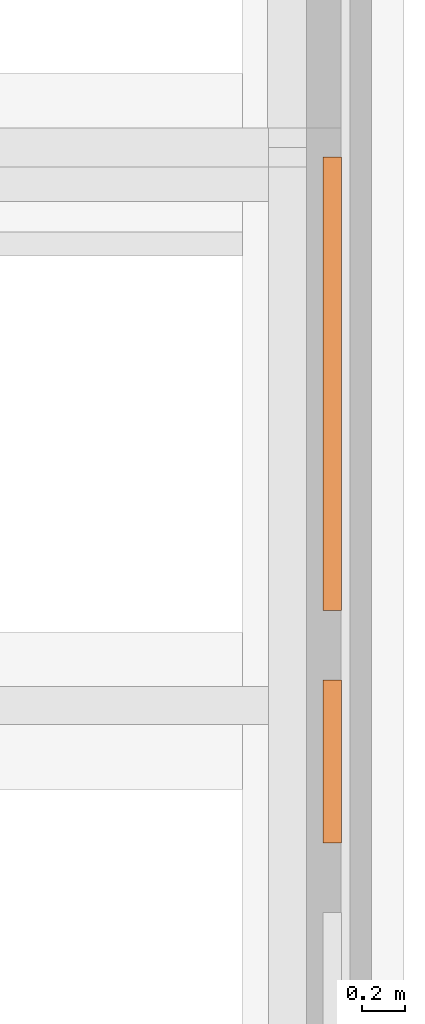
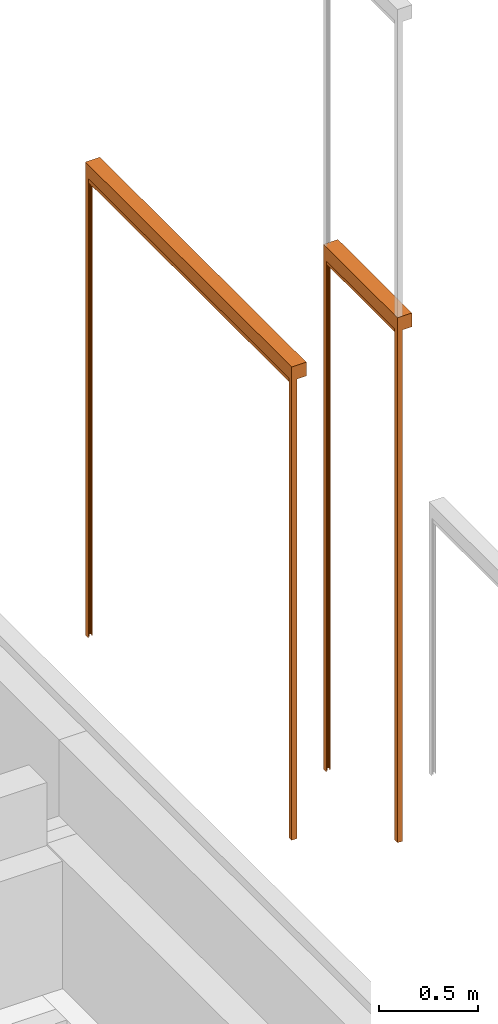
# One storey, part 15 of 15: 2 proxies.
"""IFC2X3 building model written with IfcOpenShell, lengths in millimetres."""

from ifc_helpers import new_model, entity, si_unit, converted_unit, derived_unit, direction, frame, frame_2d, origin, place, context, subcontext, project, spatial, polyline, circle_curve, parameter, trimmed, segment, composite_curve, rectangle, outline, extrude, source, transform, mapped, material, material_list, type_object, type_shapes, element, save


model = new_model("IFC2X3")

# Units and contexts
model_context = context("Model", 3, precision=0.01, world=origin(), true_north=direction((6.123031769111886e-17, 1.0)))
body_context = subcontext(model_context, "Body", "Model", "MODEL_VIEW")
ifc_project = project(units=[si_unit("LENGTHUNIT", "METRE", prefix="MILLI"), si_unit("AREAUNIT", "SQUARE_METRE"), si_unit("VOLUMEUNIT", "CUBIC_METRE"), converted_unit("PLANEANGLEUNIT", "DEGREE", entity("IfcRatioMeasure", 0.017453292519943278), si_unit("PLANEANGLEUNIT", "RADIAN"), dimensions=[0, 0, 0, 0, 0, 0, 0]), si_unit("MASSUNIT", "GRAM", prefix="KILO"), derived_unit("MASSDENSITYUNIT", [(si_unit("MASSUNIT", "GRAM", prefix="KILO"), 1), (si_unit("LENGTHUNIT", "METRE"), -3)]), derived_unit("IONCONCENTRATIONUNIT", [(si_unit("MASSUNIT", "GRAM", prefix="KILO"), 1), (si_unit("LENGTHUNIT", "METRE"), -3)]), derived_unit("MOMENTOFINERTIAUNIT", [(si_unit("LENGTHUNIT", "METRE"), 4)]), si_unit("TIMEUNIT", "SECOND"), si_unit("FREQUENCYUNIT", "HERTZ"), si_unit("THERMODYNAMICTEMPERATUREUNIT", "DEGREE_CELSIUS"), derived_unit("THERMALTRANSMITTANCEUNIT", [(si_unit("MASSUNIT", "GRAM", prefix="KILO"), 1), (si_unit("THERMODYNAMICTEMPERATUREUNIT", "KELVIN"), -1), (si_unit("TIMEUNIT", "SECOND"), -3)]), derived_unit("THERMALCONDUCTANCEUNIT", [(si_unit("MASSUNIT", "GRAM", prefix="KILO"), 1), (si_unit("THERMODYNAMICTEMPERATUREUNIT", "KELVIN"), -1), (si_unit("TIMEUNIT", "SECOND"), -3), (si_unit("LENGTHUNIT", "METRE"), 1)]), derived_unit("VOLUMETRICFLOWRATEUNIT", [(si_unit("LENGTHUNIT", "METRE"), 3), (si_unit("TIMEUNIT", "SECOND"), -1)]), derived_unit("MASSFLOWRATEUNIT", [(si_unit("MASSUNIT", "GRAM", prefix="KILO"), 1), (si_unit("TIMEUNIT", "SECOND"), -1)]), derived_unit("ROTATIONALFREQUENCYUNIT", [(si_unit("TIMEUNIT", "SECOND"), -1)]), si_unit("ELECTRICCURRENTUNIT", "AMPERE"), si_unit("ELECTRICVOLTAGEUNIT", "VOLT"), si_unit("POWERUNIT", "WATT"), si_unit("FORCEUNIT", "NEWTON", prefix="KILO"), si_unit("ILLUMINANCEUNIT", "LUX"), si_unit("LUMINOUSFLUXUNIT", "LUMEN"), si_unit("LUMINOUSINTENSITYUNIT", "CANDELA"), derived_unit("USERDEFINED", [(si_unit("MASSUNIT", "GRAM", prefix="KILO"), -1), (si_unit("LENGTHUNIT", "METRE"), -2), (si_unit("TIMEUNIT", "SECOND"), 3), (si_unit("LUMINOUSFLUXUNIT", "LUMEN"), 1)]), derived_unit("USERDEFINED", [(si_unit("MASSUNIT", "GRAM", prefix="KILO"), 1), (si_unit("TIMEUNIT", "SECOND"), -3), (si_unit("LENGTHUNIT", "METRE"), 3), (si_unit("ELECTRICCURRENTUNIT", "AMPERE"), -2)]), derived_unit("SOUNDPOWERUNIT", [(si_unit("MASSUNIT", "GRAM", prefix="KILO"), 1), (si_unit("TIMEUNIT", "SECOND"), -3), (si_unit("LENGTHUNIT", "METRE"), 2)]), derived_unit("SOUNDPRESSUREUNIT", [(si_unit("MASSUNIT", "GRAM", prefix="KILO"), 1), (si_unit("LENGTHUNIT", "METRE"), -1), (si_unit("TIMEUNIT", "SECOND"), -2)]), derived_unit("LINEARVELOCITYUNIT", [(si_unit("LENGTHUNIT", "METRE"), 1), (si_unit("TIMEUNIT", "SECOND"), -1)]), si_unit("PRESSUREUNIT", "PASCAL"), derived_unit("USERDEFINED", [(si_unit("MASSUNIT", "GRAM", prefix="KILO"), 1), (si_unit("LENGTHUNIT", "METRE"), -2), (si_unit("TIMEUNIT", "SECOND"), -2)]), derived_unit("LINEARFORCEUNIT", [(si_unit("MASSUNIT", "GRAM", prefix="KILO"), 1), (si_unit("TIMEUNIT", "SECOND"), -2)]), derived_unit("PLANARFORCEUNIT", [(si_unit("MASSUNIT", "GRAM", prefix="KILO"), 1), (si_unit("LENGTHUNIT", "METRE"), -1), (si_unit("TIMEUNIT", "SECOND"), -2)]), derived_unit("SPECIFICHEATCAPACITYUNIT", [(si_unit("THERMODYNAMICTEMPERATUREUNIT", "KELVIN"), -1), (si_unit("LENGTHUNIT", "METRE"), 2), (si_unit("TIMEUNIT", "SECOND"), -2)]), derived_unit("HEATINGVALUEUNIT", [(si_unit("LENGTHUNIT", "METRE"), 2), (si_unit("TIMEUNIT", "SECOND"), -2)]), derived_unit("VAPORPERMEABILITYUNIT", [(si_unit("LENGTHUNIT", "METRE"), -1), (si_unit("TIMEUNIT", "SECOND"), 1)]), derived_unit("DYNAMICVISCOSITYUNIT", [(si_unit("MASSUNIT", "GRAM", prefix="KILO"), 1), (si_unit("TIMEUNIT", "SECOND"), -1), (si_unit("LENGTHUNIT", "METRE"), -1)]), derived_unit("THERMALEXPANSIONCOEFFICIENTUNIT", [(si_unit("THERMODYNAMICTEMPERATUREUNIT", "KELVIN"), -1)]), derived_unit("MODULUSOFELASTICITYUNIT", [(si_unit("MASSUNIT", "GRAM", prefix="KILO"), 1), (si_unit("LENGTHUNIT", "METRE"), -1), (si_unit("TIMEUNIT", "SECOND"), -2)]), derived_unit("ISOTHERMALMOISTURECAPACITYUNIT", [(si_unit("LENGTHUNIT", "METRE"), 3), (si_unit("MASSUNIT", "GRAM", prefix="KILO"), -1)]), derived_unit("MOISTUREDIFFUSIVITYUNIT", [(si_unit("TIMEUNIT", "SECOND"), -1), (si_unit("LENGTHUNIT", "METRE"), 2)])], contexts=[model_context])

# Site, building, storey
site_placement = place(None, frame((0.0, 300.0, 0.0)))
site = spatial("IfcSite", under=ifc_project, at=site_placement, Name="<Kadastrale nummers>", CompositionType="ELEMENT")
building_placement = place(site_placement, origin())
building = spatial("IfcBuilding", under=site, at=building_placement, CompositionType="ELEMENT")
storey_placement = place(building_placement, frame((0.0, 0.0, -1570.0)))
storey = spatial("IfcBuildingStorey", under=building, at=storey_placement, Name="-1 fundering", CompositionType="ELEMENT", Elevation=-1570.0)

# Proxies
ifc_material_1 = material(Name="STAAL_RAL 7006")
ifc_material_2 = material(Name="<Unnamed>")
ifc_material_list = material_list([ifc_material_1, ifc_material_2])
building_element_proxy_type_1 = type_object("IfcBuildingElementProxyType", Name="31_DAT_Screen_zonwering_bak85:31_DAT_Screen_zonwering_bak85", PredefinedType="NOTDEFINED", material=ifc_material_list)
shared_shape_1 = source(origin(), body_context, "Body", "SweptSolid", [
    extrude(outline(polyline([(-60.69864841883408, -53.573897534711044), (20.695945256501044, -53.573897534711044), (20.695945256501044, 1.1216926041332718), (22.501351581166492, 1.1216926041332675), (22.501351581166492, 24.626102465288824), (17.501351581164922, 24.626102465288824), (17.501351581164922, 27.826102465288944), (-60.69864841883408, 27.826102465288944), (-60.69864841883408, -53.573897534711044)])), frame((2088.0, -29.62610246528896, 3312.501351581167), z_axis=(1.0, 0.0, 0.0), x_axis=(0.0, 0.0, -1.0)), (0.0, 0.0, 1.0), 1.999999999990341),
    extrude(outline(polyline([(-55.83243227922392, -51.08259835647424), (29.167567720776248, -51.08259835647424), (29.167567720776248, 5.412991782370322), (27.362161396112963, 5.412991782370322), (27.362161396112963, -49.28259835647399), (-54.03243227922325, -49.28259835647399), (-54.03243227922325, 32.117401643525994), (24.1675677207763, 32.117401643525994), (24.1675677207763, 28.91740164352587), (29.167567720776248, 28.91740164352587), (29.167567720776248, 33.917401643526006), (-55.83243227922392, 33.917401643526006), (-55.83243227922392, -51.08259835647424)])), frame((0.0, -33.917401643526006, 3319.167567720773), z_axis=(1.0, 0.0, 0.0), x_axis=(0.0, 0.0, -1.0)), (0.0, 0.0, 1.0), 2089.9999999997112),
    extrude(outline(polyline([(-60.69864841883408, -53.573897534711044), (20.695945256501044, -53.573897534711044), (20.695945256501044, 1.1216926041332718), (22.501351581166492, 1.1216926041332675), (22.501351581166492, 24.626102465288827), (17.501351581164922, 24.626102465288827), (17.501351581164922, 27.826102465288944), (-60.69864841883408, 27.826102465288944), (-60.69864841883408, -53.573897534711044)])), frame((0.0, -29.62610246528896, 3312.501351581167), z_axis=(1.0, 0.0, 0.0), x_axis=(0.0, 0.0, -1.0)), (0.0, 0.0, 1.0), 1.999999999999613),
    extrude(rectangle(XDim=2049.9999999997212, YDim=1.163311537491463, at=frame_2d((0.0, -2.1094237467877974e-15), x_axis=(1.0, 0.0))), frame((1045.0, -20.037293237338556, 3280.8)), (0.0, 0.0, 1.0), 9.200000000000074),
    extrude(outline(composite_curve([segment(polyline([(-7.502327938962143, -23.023758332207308), (7.497672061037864, -23.023758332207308)]), True, "CONTINUOUS"), segment(trimmed(circle_curve(frame_2d((7.497672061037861, -21.523758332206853), x_axis=(0.0, -1.0)), 1.4999999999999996), [parameter(359.99999999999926)], [parameter(90.00000000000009)], True, "PARAMETER"), True, "CONTINUOUS"), segment(polyline([(8.997672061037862, -21.523758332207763), (8.997672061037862, 8.976241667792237)]), True, "CONTINUOUS"), segment(trimmed(circle_curve(frame_2d((5.99767206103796, 8.976241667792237), x_axis=(0.0, -1.0)), 3.0), [parameter(90.00000000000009)], [parameter(172.84454900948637)], True, "PARAMETER"), True, "CONTINUOUS"), segment(polyline([(6.371357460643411, 11.952877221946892), (2.232090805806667, 12.470504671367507)]), True, "CONTINUOUS"), segment(trimmed(circle_curve(frame_2d((2.1399803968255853, 11.733933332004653), x_axis=(0.0, -1.0)), 0.7423083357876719), [parameter(172.87199730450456)], [parameter(323.5235343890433)], True, "PARAMETER"), True, "CONTINUOUS"), segment(trimmed(circle_curve(frame_2d((-0.0023279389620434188, 8.976241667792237), x_axis=(0.0, -1.0)), 2.75), [parameter(217.47327986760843)], [parameter(141.78969998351)], True, "PARAMETER"), False, "CONTINUOUS"), segment(trimmed(circle_curve(frame_2d((-2.144636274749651, 11.733933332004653), x_axis=(0.0, -1.0)), 0.7423083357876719), [parameter(39.207114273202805)], [parameter(187.12800269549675)], True, "PARAMETER"), True, "CONTINUOUS"), segment(polyline([(-2.2367466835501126, 12.470504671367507), (-6.376013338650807, 11.952877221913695)]), True, "CONTINUOUS"), segment(trimmed(circle_curve(frame_2d((-6.002327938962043, 8.976241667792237), x_axis=(0.0, -1.0)), 3.0), [parameter(187.1554509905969)], [parameter(269.9999999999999)], True, "PARAMETER"), True, "CONTINUOUS"), segment(polyline([(-9.002327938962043, 8.976241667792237), (-9.002327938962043, -21.523758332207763)]), True, "CONTINUOUS"), segment(trimmed(circle_curve(frame_2d((-7.502327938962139, -21.523758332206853), x_axis=(0.0, -1.0)), 1.5000000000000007), [parameter(269.9999999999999)], [parameter(359.9999999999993)], True, "PARAMETER"), True, "CONTINUOUS")], self_intersect=False)), frame((20.0, -19.997672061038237, 3273.823758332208), z_axis=(1.0, 0.0, 0.0), x_axis=(0.0, 1.0, 0.0)), (0.0, 0.0, 1.0), 2049.9999999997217),
    extrude(outline(polyline([(-14.638298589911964, -16.231574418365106), (-13.138298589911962, -16.231574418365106), (-13.138298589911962, 12.23272922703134), (-6.116685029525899, 12.23272922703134), (-6.116685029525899, -6.231574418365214), (-1.116685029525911, -6.231574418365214), (-1.116685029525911, -4.769580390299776), (-4.579546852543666, -4.769580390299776), (-4.579546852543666, 12.23272922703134), (13.86611127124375, 12.23272922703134), (13.86611127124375, -4.769580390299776), (10.36170141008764, -4.769580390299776), (10.36170141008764, -6.2315744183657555), (15.36170141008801, -6.2315744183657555), (15.36170141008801, 13.7684255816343), (-14.638298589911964, 13.7684255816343), (-14.638298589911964, -16.231574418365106)])), frame((2076.2315744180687, -14.638298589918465, 450.0), z_axis=(0.0, 0.0, 1.0), x_axis=(0.0, -1.0, 0.0)), (0.0, 0.0, 1.0), 2840.0000000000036),
    extrude(outline(polyline([(-16.231574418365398, -14.638298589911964), (13.768425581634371, -14.638298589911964), (13.76842558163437, 15.361701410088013), (-6.231574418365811, 15.361701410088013), (-6.231574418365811, 10.361701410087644), (-4.769580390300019, 10.361701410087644), (-4.769580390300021, 13.866111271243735), (12.2327292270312, 13.866111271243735), (12.2327292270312, -4.57954685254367), (-4.769580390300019, -4.57954685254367), (-4.769580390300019, -1.1166850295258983), (-6.231574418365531, -1.1166850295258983), (-6.231574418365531, -6.116685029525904), (12.232729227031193, -6.116685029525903), (12.232729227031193, -13.138298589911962), (-16.231574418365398, -13.138298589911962), (-16.231574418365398, -14.638298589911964)])), frame((13.768425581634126, -14.638298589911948, 450.0), z_axis=(0.0, 0.0, 1.0), x_axis=(-1.0, 0.0, 0.0)), (0.0, 0.0, 1.0), 2840.000000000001),
])
type_shapes(building_element_proxy_type_1, [shared_shape_1])
proxy_1_placement = place(storey_placement, frame((48751.0, 38550.0, 1822.0000331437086), z_axis=(0.0, 0.0, 1.0), x_axis=(0.0, 1.0, 0.0)))
element("IfcBuildingElementProxy", 1, at=proxy_1_placement, inside=storey, type_object=building_element_proxy_type_1, material=ifc_material_list, Name="31_DAT_Screen_zonwering_bak85:31_DAT_Screen_zonwering_bak85", ObjectType="31_DAT_Screen_zonwering_bak85:31_DAT_Screen_zonwering_bak85", context=body_context, shape_type="MappedRepresentation", body=[
    mapped(shared_shape_1, transform((0.0, 0.0, 0.0), scale=1.0)),
])
building_element_proxy_type_2 = type_object("IfcBuildingElementProxyType", Name="31_DAT_Screen_zonwering_bak85:31_DAT_Screen_zonwering_bak85", PredefinedType="NOTDEFINED", material=ifc_material_list)
shared_shape_2 = source(origin(), body_context, "Body", "SweptSolid", [
    extrude(outline(polyline([(-60.698648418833, -53.573897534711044), (20.695945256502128, -53.573897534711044), (20.695945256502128, 1.1216926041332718), (22.501351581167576, 1.1216926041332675), (22.501351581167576, 24.626102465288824), (17.501351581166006, 24.626102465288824), (17.501351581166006, 27.826102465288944), (-60.698648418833, 27.826102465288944), (-60.698648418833, -53.573897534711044)])), frame((748.0, -29.62610246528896, 4517.501351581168), z_axis=(1.0, 0.0, 0.0), x_axis=(0.0, 0.0, -1.0)), (0.0, 0.0, 1.0), 1.9999999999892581),
    extrude(outline(polyline([(-55.832432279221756, -51.08259835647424), (29.16756772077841, -51.08259835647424), (29.16756772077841, 5.412991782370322), (27.36216139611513, 5.412991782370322), (27.36216139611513, -49.28259835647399), (-54.032432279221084, -49.28259835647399), (-54.032432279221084, 32.117401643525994), (24.167567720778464, 32.117401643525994), (24.167567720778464, 28.91740164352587), (29.16756772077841, 28.91740164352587), (29.16756772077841, 33.917401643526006), (-55.832432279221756, 33.917401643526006), (-55.832432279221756, -51.08259835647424)])), frame((0.0, -33.917401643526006, 4524.167567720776), z_axis=(1.0, 0.0, 0.0), x_axis=(0.0, 0.0, -1.0)), (0.0, 0.0, 1.0), 749.9999999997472),
    extrude(outline(polyline([(-60.698648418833, -53.573897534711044), (20.695945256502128, -53.573897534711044), (20.695945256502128, 1.1216926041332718), (22.501351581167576, 1.1216926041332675), (22.501351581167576, 24.626102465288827), (17.501351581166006, 24.626102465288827), (17.501351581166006, 27.826102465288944), (-60.698648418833, 27.826102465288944), (-60.698648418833, -53.573897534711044)])), frame((0.0, -29.62610246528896, 4517.501351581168), z_axis=(1.0, 0.0, 0.0), x_axis=(0.0, 0.0, -1.0)), (0.0, 0.0, 1.0), 1.999999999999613),
    extrude(rectangle(XDim=709.9999999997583, YDim=1.163311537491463, at=frame_2d((-2.842170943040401e-14, -2.1094237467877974e-15), x_axis=(1.0, 0.0))), frame((375.0, -20.037293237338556, 4490.0000350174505)), (0.0, 0.0, 1.0), 4.999964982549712),
    extrude(outline(composite_curve([segment(polyline([(-7.502327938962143, -23.023758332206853), (7.497672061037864, -23.023758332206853)]), True, "CONTINUOUS"), segment(trimmed(circle_curve(frame_2d((7.497672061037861, -21.523758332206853), x_axis=(0.0, -1.0)), 1.4999999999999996), [parameter(359.99999999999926)], [parameter(90.00000000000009)], True, "PARAMETER"), True, "CONTINUOUS"), segment(polyline([(8.997672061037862, -21.523758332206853), (8.997672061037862, 8.976241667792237)]), True, "CONTINUOUS"), segment(trimmed(circle_curve(frame_2d((5.99767206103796, 8.976241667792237), x_axis=(0.0, -1.0)), 3.0), [parameter(90.00000000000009)], [parameter(172.84454900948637)], True, "PARAMETER"), True, "CONTINUOUS"), segment(polyline([(6.371357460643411, 11.952877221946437), (2.232090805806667, 12.470504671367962)]), True, "CONTINUOUS"), segment(trimmed(circle_curve(frame_2d((2.1399803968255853, 11.733933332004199), x_axis=(0.0, -1.0)), 0.7423083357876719), [parameter(172.87199730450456)], [parameter(323.5235343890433)], True, "PARAMETER"), True, "CONTINUOUS"), segment(trimmed(circle_curve(frame_2d((-0.0023279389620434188, 8.976241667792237), x_axis=(0.0, -1.0)), 2.75), [parameter(217.47327986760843)], [parameter(141.78969998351)], True, "PARAMETER"), False, "CONTINUOUS"), segment(trimmed(circle_curve(frame_2d((-2.144636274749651, 11.733933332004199), x_axis=(0.0, -1.0)), 0.7423083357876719), [parameter(39.207114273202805)], [parameter(187.12800269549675)], True, "PARAMETER"), True, "CONTINUOUS"), segment(polyline([(-2.2367466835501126, 12.470504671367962), (-6.376013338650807, 11.952877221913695)]), True, "CONTINUOUS"), segment(trimmed(circle_curve(frame_2d((-6.002327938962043, 8.976241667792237), x_axis=(0.0, -1.0)), 3.0), [parameter(187.1554509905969)], [parameter(269.9999999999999)], True, "PARAMETER"), True, "CONTINUOUS"), segment(polyline([(-9.002327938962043, 8.976241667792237), (-9.002327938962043, -21.523758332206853)]), True, "CONTINUOUS"), segment(trimmed(circle_curve(frame_2d((-7.502327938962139, -21.523758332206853), x_axis=(0.0, -1.0)), 1.5000000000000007), [parameter(269.9999999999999)], [parameter(359.9999999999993)], True, "PARAMETER"), True, "CONTINUOUS")], self_intersect=False)), frame((20.0, -19.997672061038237, 4483.023793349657), z_axis=(1.0, 0.0, 0.0), x_axis=(0.0, 1.0, 0.0)), (0.0, 0.0, 1.0), 709.999999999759),
    extrude(outline(polyline([(-14.638298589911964, -16.23157441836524), (-13.138298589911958, -16.23157441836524), (-13.138298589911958, 12.23272922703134), (-6.116685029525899, 12.23272922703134), (-6.116685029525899, -6.231574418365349), (-1.116685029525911, -6.231574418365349), (-1.116685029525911, -4.769580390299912), (-4.579546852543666, -4.769580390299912), (-4.579546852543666, 12.232729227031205), (13.86611127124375, 12.232729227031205), (13.86611127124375, -4.769580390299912), (10.36170141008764, -4.769580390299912), (10.36170141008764, -6.2315744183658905), (15.36170141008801, -6.2315744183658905), (15.36170141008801, 13.768425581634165), (-14.638298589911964, 13.768425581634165), (-14.638298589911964, -16.23157441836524)])), frame((736.2315744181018, -14.638298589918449, 1335.0), z_axis=(0.0, 0.0, 1.0), x_axis=(0.0, -1.0, 0.0)), (0.0, 0.0, 1.0), 3160.0000000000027),
    extrude(outline(polyline([(-16.231574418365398, -14.638298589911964), (13.768425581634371, -14.638298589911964), (13.76842558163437, 15.361701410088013), (-6.231574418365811, 15.361701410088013), (-6.231574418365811, 10.361701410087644), (-4.769580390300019, 10.361701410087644), (-4.769580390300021, 13.866111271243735), (12.2327292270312, 13.866111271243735), (12.2327292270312, -4.57954685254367), (-4.769580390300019, -4.57954685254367), (-4.769580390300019, -1.1166850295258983), (-6.231574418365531, -1.1166850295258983), (-6.231574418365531, -6.116685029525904), (12.232729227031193, -6.116685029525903), (12.232729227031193, -13.138298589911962), (-16.231574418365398, -13.138298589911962), (-16.231574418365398, -14.638298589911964)])), frame((13.768425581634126, -14.638298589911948, 1335.0), z_axis=(0.0, 0.0, 1.0), x_axis=(-1.0, 0.0, 0.0)), (0.0, 0.0, 1.0), 3160.0),
])
type_shapes(building_element_proxy_type_2, [shared_shape_2])
proxy_2_placement = place(storey_placement, frame((48751.0, 37480.0, 1570.0), z_axis=(0.0, 0.0, 1.0), x_axis=(0.0, 1.0, 0.0)))
element("IfcBuildingElementProxy", 2, at=proxy_2_placement, inside=storey, type_object=building_element_proxy_type_2, material=ifc_material_list, Name="31_DAT_Screen_zonwering_bak85:31_DAT_Screen_zonwering_bak85", ObjectType="31_DAT_Screen_zonwering_bak85:31_DAT_Screen_zonwering_bak85", context=body_context, shape_type="MappedRepresentation", body=[
    mapped(shared_shape_2, transform((0.0, 0.0, 0.0), scale=1.0)),
])

save(model, "model.ifc")
